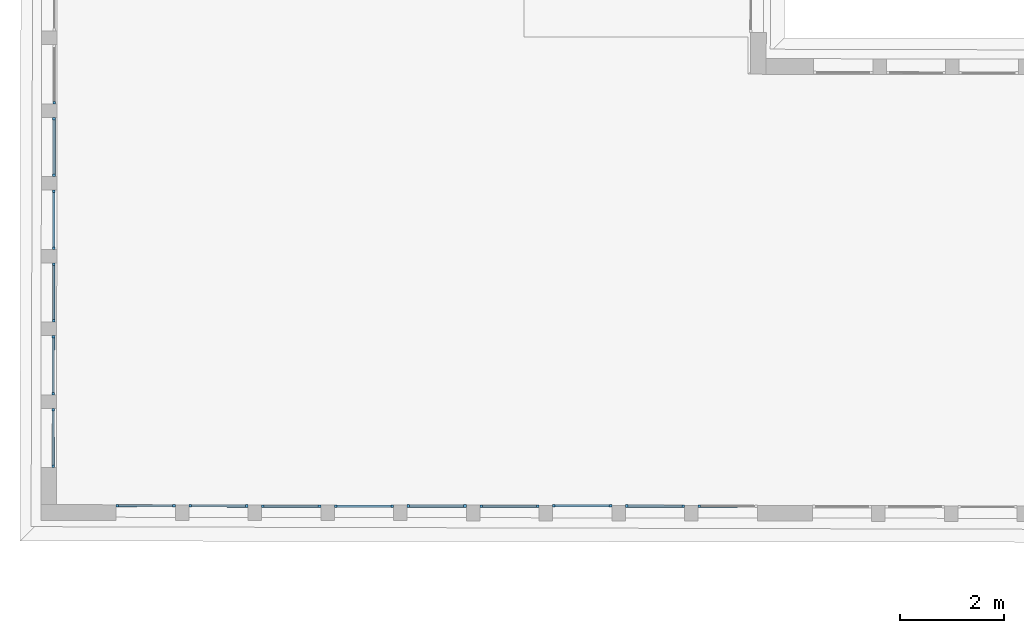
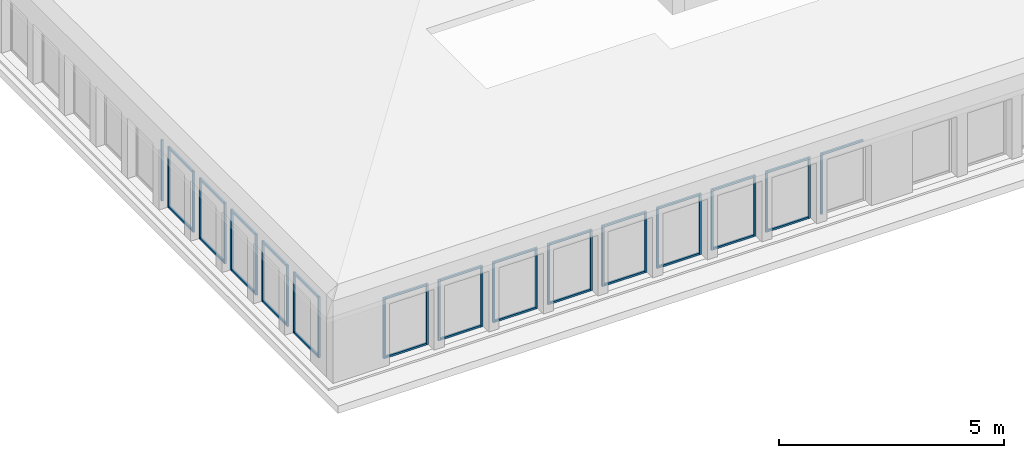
# One storey, part 1 of 26: 55 members, 15 elements without a shape of their own.
"""IFC2X3 building model written with IfcOpenShell, lengths in metres."""

from ifc_helpers import new_model, entity, si_unit, converted_unit, derived_unit, direction, frame, origin, origin_2d_with_axis, place, context, subcontext, project, spatial, rectangle, extrude, source, transform, mapped, material, type_object, type_shapes, element, aggregate, save


model = new_model("IFC2X3")

# Units and contexts
model_context = context("Model", 3, precision=1e-05, world=origin(), true_north=direction((6.123233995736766e-17, 1.0)))
body_context = subcontext(model_context, "Body", "Model", "MODEL_VIEW")
ifc_project = project(units=[si_unit("LENGTHUNIT", "METRE"), si_unit("AREAUNIT", "SQUARE_METRE"), converted_unit("PLANEANGLEUNIT", "DEGREE", entity("IfcPlaneAngleMeasure", 0.017453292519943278), si_unit("PLANEANGLEUNIT", "RADIAN"), dimensions=[0, 0, 0, 0, 0, 0, 0]), derived_unit("THERMALTRANSMITTANCEUNIT", [(si_unit("MASSUNIT", "GRAM", prefix="KILO"), 1), (si_unit("THERMODYNAMICTEMPERATUREUNIT", "KELVIN"), -1), (si_unit("TIMEUNIT", "SECOND"), -3)])], contexts=[model_context])

# Site, building, storey
site_placement = place(None, frame((1253.6752467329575, 2072.143113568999, 91.49999999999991), z_axis=(0.0, 0.0, 1.0), x_axis=(0.7237211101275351, 0.6900925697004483, 0.0)))
site = spatial("IfcSite", under=ifc_project, at=site_placement, Name="Surface", CompositionType="ELEMENT")
building_placement = place(site_placement, origin())
building = spatial("IfcBuilding", under=site, at=building_placement, CompositionType="ELEMENT")
storey_placement = place(building_placement, frame((0.0, 0.0, 7.0)))
storey = spatial("IfcBuildingStorey", under=building, at=storey_placement, Name="2-R+2", CompositionType="ELEMENT", Elevation=6.999999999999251)

# Curtain wall, member
curtain_wall_type = type_object("IfcCurtainWallType", Name="Mur-rideau:Menuiserie Ext 1F+1OB VERTIC", PredefinedType="NOTDEFINED")
curtain_wall_1_placement = place(storey_placement, frame((0.0, 0.0, -7.0)))
curtain_wall_1 = element("IfcCurtainWall", 1, at=curtain_wall_1_placement, inside=storey, type_object=curtain_wall_type, Name="Mur-rideau:Menuiserie Ext 1F+1OB VERTIC", ObjectType="Mur-rideau:Menuiserie Ext 1F+1OB VERTIC")
ifc_material = material(Name="OMD_Aluminium Men Ext")
member_type_1 = type_object("IfcMemberType", Name="Meneau rectangulaire:50x50", PredefinedType="MULLION", material=ifc_material)
shared_shape_1 = source(origin(), body_context, "Body", "SweptSolid", [
    extrude(rectangle(XDim=0.05, YDim=0.049999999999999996, at=origin_2d_with_axis()), frame((-0.025, 0.0, -1.039999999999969), z_axis=(0.0, 0.0, 1.0), x_axis=(-1.0, 0.0, 0.0)), (0.0, 0.0, 1.0), 1.0399999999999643),
])
type_shapes(member_type_1, [shared_shape_1])
member_1_placement = place(curtain_wall_1_placement, frame((149.30888810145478, 9.666246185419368, 9.55), z_axis=(0.6911544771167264, 0.7227070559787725, 0.0), x_axis=(0.0, 0.0, 1.0)))
member_1 = element("IfcMember", 2, at=member_1_placement, type_object=member_type_1, material=ifc_material, Name="Meneau rectangulaire:50x50", ObjectType="Meneau rectangulaire:50x50", context=body_context, shape_type="MappedRepresentation", body=[
    mapped(shared_shape_1, transform((0.0, 0.0, 0.0), scale=1.0)),
])

curtain_wall_2_placement = place(storey_placement, frame((0.0, 0.0, -7.0)))
curtain_wall_2 = element("IfcCurtainWall", 3, at=curtain_wall_2_placement, inside=storey, type_object=curtain_wall_type, Name="Mur-rideau:Menuiserie Ext 1F+1OB VERTIC", ObjectType="Mur-rideau:Menuiserie Ext 1F+1OB VERTIC")
member_2_placement = place(curtain_wall_2_placement, frame((148.3401226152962, 8.65555660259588, 9.55), z_axis=(0.6911544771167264, 0.7227070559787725, 0.0), x_axis=(0.0, 0.0, 1.0)))
member_2 = element("IfcMember", 4, at=member_2_placement, type_object=member_type_1, material=ifc_material, Name="Meneau rectangulaire:50x50", ObjectType="Meneau rectangulaire:50x50", context=body_context, shape_type="MappedRepresentation", body=[
    mapped(shared_shape_1, transform((0.0, 0.0, 0.0), scale=1.0)),
])

curtain_wall_3_placement = place(storey_placement, frame((0.0, 0.0, -7.0)))
curtain_wall_3 = element("IfcCurtainWall", 5, at=curtain_wall_3_placement, inside=storey, type_object=curtain_wall_type, Name="Mur-rideau:Menuiserie Ext 1F+1OB VERTIC", ObjectType="Mur-rideau:Menuiserie Ext 1F+1OB VERTIC")
member_3_placement = place(curtain_wall_3_placement, frame((147.3713571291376, 7.644867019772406, 9.55), z_axis=(0.6911544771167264, 0.7227070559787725, 0.0), x_axis=(0.0, 0.0, 1.0)))
member_3 = element("IfcMember", 6, at=member_3_placement, type_object=member_type_1, material=ifc_material, Name="Meneau rectangulaire:50x50", ObjectType="Meneau rectangulaire:50x50", context=body_context, shape_type="MappedRepresentation", body=[
    mapped(shared_shape_1, transform((0.0, 0.0, 0.0), scale=1.0)),
])

curtain_wall_4_placement = place(storey_placement, frame((0.0, 0.0, -7.0)))
curtain_wall_4 = element("IfcCurtainWall", 7, at=curtain_wall_4_placement, inside=storey, type_object=curtain_wall_type, Name="Mur-rideau:Menuiserie Ext 1F+1OB VERTIC", ObjectType="Mur-rideau:Menuiserie Ext 1F+1OB VERTIC")
member_4_placement = place(curtain_wall_4_placement, frame((146.40259164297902, 6.634177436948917, 9.55), z_axis=(0.6911544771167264, 0.7227070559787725, 0.0), x_axis=(0.0, 0.0, 1.0)))
member_4 = element("IfcMember", 8, at=member_4_placement, type_object=member_type_1, material=ifc_material, Name="Meneau rectangulaire:50x50", ObjectType="Meneau rectangulaire:50x50", context=body_context, shape_type="MappedRepresentation", body=[
    mapped(shared_shape_1, transform((0.0, 0.0, 0.0), scale=1.0)),
])

curtain_wall_5_placement = place(storey_placement, frame((0.0, 0.0, -7.0)))
curtain_wall_5 = element("IfcCurtainWall", 9, at=curtain_wall_5_placement, inside=storey, type_object=curtain_wall_type, Name="Mur-rideau:Menuiserie Ext 1F+1OB VERTIC", ObjectType="Mur-rideau:Menuiserie Ext 1F+1OB VERTIC")
member_5_placement = place(curtain_wall_5_placement, frame((145.43382615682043, 5.623487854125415, 9.55), z_axis=(0.6911544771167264, 0.7227070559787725, 0.0), x_axis=(0.0, 0.0, 1.0)))
member_5 = element("IfcMember", 10, at=member_5_placement, type_object=member_type_1, material=ifc_material, Name="Meneau rectangulaire:50x50", ObjectType="Meneau rectangulaire:50x50", context=body_context, shape_type="MappedRepresentation", body=[
    mapped(shared_shape_1, transform((0.0, 0.0, 0.0), scale=1.0)),
])

curtain_wall_6_placement = place(storey_placement, frame((0.0, 0.0, -7.0)))
curtain_wall_6 = element("IfcCurtainWall", 11, at=curtain_wall_6_placement, inside=storey, type_object=curtain_wall_type, Name="Mur-rideau:Menuiserie Ext 1F+1OB VERTIC", ObjectType="Mur-rideau:Menuiserie Ext 1F+1OB VERTIC")
member_6_placement = place(curtain_wall_6_placement, frame((153.18626883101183, -4.300188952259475, 9.55), z_axis=(-0.7228702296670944, 0.6909838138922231, 0.0), x_axis=(0.0, 0.0, 1.0)))
member_6 = element("IfcMember", 12, at=member_6_placement, type_object=member_type_1, material=ifc_material, Name="Meneau rectangulaire:50x50", ObjectType="Meneau rectangulaire:50x50", context=body_context, shape_type="MappedRepresentation", body=[
    mapped(shared_shape_1, transform((0.0, 0.0, 0.0), scale=1.0)),
])

curtain_wall_7_placement = place(storey_placement, frame((0.0, 0.0, -7.0)))
curtain_wall_7 = element("IfcCurtainWall", 13, at=curtain_wall_7_placement, inside=storey, type_object=curtain_wall_type, Name="Mur-rideau:Menuiserie Ext 1F+1OB VERTIC", ObjectType="Mur-rideau:Menuiserie Ext 1F+1OB VERTIC")
member_7_placement = place(curtain_wall_7_placement, frame((152.17557924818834, -3.331423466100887, 9.55), z_axis=(-0.7228702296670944, 0.6909838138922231, 0.0), x_axis=(0.0, 0.0, 1.0)))
member_7 = element("IfcMember", 14, at=member_7_placement, type_object=member_type_1, material=ifc_material, Name="Meneau rectangulaire:50x50", ObjectType="Meneau rectangulaire:50x50", context=body_context, shape_type="MappedRepresentation", body=[
    mapped(shared_shape_1, transform((0.0, 0.0, 0.0), scale=1.0)),
])

curtain_wall_8_placement = place(storey_placement, frame((0.0, 0.0, -7.0)))
curtain_wall_8 = element("IfcCurtainWall", 15, at=curtain_wall_8_placement, inside=storey, type_object=curtain_wall_type, Name="Mur-rideau:Menuiserie Ext 1F+1OB VERTIC", ObjectType="Mur-rideau:Menuiserie Ext 1F+1OB VERTIC")
member_8_placement = place(curtain_wall_8_placement, frame((151.16488966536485, -2.3626579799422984, 9.55), z_axis=(-0.7228702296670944, 0.6909838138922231, 0.0), x_axis=(0.0, 0.0, 1.0)))
member_8 = element("IfcMember", 16, at=member_8_placement, type_object=member_type_1, material=ifc_material, Name="Meneau rectangulaire:50x50", ObjectType="Meneau rectangulaire:50x50", context=body_context, shape_type="MappedRepresentation", body=[
    mapped(shared_shape_1, transform((0.0, 0.0, 0.0), scale=1.0)),
])

curtain_wall_9_placement = place(storey_placement, frame((0.0, 0.0, -7.0)))
curtain_wall_9 = element("IfcCurtainWall", 17, at=curtain_wall_9_placement, inside=storey, type_object=curtain_wall_type, Name="Mur-rideau:Menuiserie Ext 1F+1OB VERTIC", ObjectType="Mur-rideau:Menuiserie Ext 1F+1OB VERTIC")
member_9_placement = place(curtain_wall_9_placement, frame((150.1472803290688, -1.4011117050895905, 9.55), z_axis=(-0.7228702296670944, 0.6909838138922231, 0.0), x_axis=(0.0, 0.0, 1.0)))
member_9 = element("IfcMember", 18, at=member_9_placement, type_object=member_type_1, material=ifc_material, Name="Meneau rectangulaire:50x50", ObjectType="Meneau rectangulaire:50x50", context=body_context, shape_type="MappedRepresentation", body=[
    mapped(shared_shape_1, transform((0.0, 0.0, 0.0), scale=1.0)),
])

curtain_wall_10_placement = place(storey_placement, frame((0.0, 0.0, -7.0)))
curtain_wall_10 = element("IfcCurtainWall", 19, at=curtain_wall_10_placement, inside=storey, type_object=curtain_wall_type, Name="Mur-rideau:Menuiserie Ext 1F+1OB VERTIC", ObjectType="Mur-rideau:Menuiserie Ext 1F+1OB VERTIC")
member_10_placement = place(curtain_wall_10_placement, frame((149.1365907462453, -0.4323462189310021, 9.55), z_axis=(-0.7228702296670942, 0.6909838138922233, 0.0), x_axis=(0.0, 0.0, 1.0)))
member_10 = element("IfcMember", 20, at=member_10_placement, type_object=member_type_1, material=ifc_material, Name="Meneau rectangulaire:50x50", ObjectType="Meneau rectangulaire:50x50", context=body_context, shape_type="MappedRepresentation", body=[
    mapped(shared_shape_1, transform((0.0, 0.0, 0.0), scale=1.0)),
])

curtain_wall_11_placement = place(storey_placement, frame((0.0, 0.0, -7.0)))
curtain_wall_11 = element("IfcCurtainWall", 21, at=curtain_wall_11_placement, inside=storey, type_object=curtain_wall_type, Name="Mur-rideau:Menuiserie Ext 1F+1OB VERTIC", ObjectType="Mur-rideau:Menuiserie Ext 1F+1OB VERTIC")
member_11_placement = place(curtain_wall_11_placement, frame((148.11898140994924, 0.5292000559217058, 9.55), z_axis=(-0.7228702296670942, 0.6909838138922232, 0.0), x_axis=(0.0, 0.0, 1.0)))
member_11 = element("IfcMember", 22, at=member_11_placement, type_object=member_type_1, material=ifc_material, Name="Meneau rectangulaire:50x50", ObjectType="Meneau rectangulaire:50x50", context=body_context, shape_type="MappedRepresentation", body=[
    mapped(shared_shape_1, transform((0.0, 0.0, 0.0), scale=1.0)),
])

curtain_wall_12_placement = place(storey_placement, frame((0.0, 0.0, -7.0)))
curtain_wall_12 = element("IfcCurtainWall", 23, at=curtain_wall_12_placement, inside=storey, type_object=curtain_wall_type, Name="Mur-rideau:Menuiserie Ext 1F+1OB VERTIC", ObjectType="Mur-rideau:Menuiserie Ext 1F+1OB VERTIC")
member_12_placement = place(curtain_wall_12_placement, frame((147.10829182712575, 1.4979655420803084, 9.55), z_axis=(-0.7228702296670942, 0.6909838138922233, 0.0), x_axis=(0.0, 0.0, 1.0)))
member_12 = element("IfcMember", 24, at=member_12_placement, type_object=member_type_1, material=ifc_material, Name="Meneau rectangulaire:50x50", ObjectType="Meneau rectangulaire:50x50", context=body_context, shape_type="MappedRepresentation", body=[
    mapped(shared_shape_1, transform((0.0, 0.0, 0.0), scale=1.0)),
])

curtain_wall_13_placement = place(storey_placement, frame((0.0, 0.0, -7.0)))
curtain_wall_13 = element("IfcCurtainWall", 25, at=curtain_wall_13_placement, inside=storey, type_object=curtain_wall_type, Name="Mur-rideau:Menuiserie Ext 1F+1OB VERTIC", ObjectType="Mur-rideau:Menuiserie Ext 1F+1OB VERTIC")
member_13_placement = place(curtain_wall_13_placement, frame((146.09760224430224, 2.4667310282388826, 9.55), z_axis=(-0.7228702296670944, 0.6909838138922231, 0.0), x_axis=(0.0, 0.0, 1.0)))
member_13 = element("IfcMember", 26, at=member_13_placement, type_object=member_type_1, material=ifc_material, Name="Meneau rectangulaire:50x50", ObjectType="Meneau rectangulaire:50x50", context=body_context, shape_type="MappedRepresentation", body=[
    mapped(shared_shape_1, transform((0.0, 0.0, 0.0), scale=1.0)),
])

curtain_wall_14_placement = place(storey_placement, frame((0.0, 0.0, -7.0)))
curtain_wall_14 = element("IfcCurtainWall", 27, at=curtain_wall_14_placement, inside=storey, type_object=curtain_wall_type, Name="Mur-rideau:Menuiserie Ext 1F+1OB VERTIC", ObjectType="Mur-rideau:Menuiserie Ext 1F+1OB VERTIC")
member_14_placement = place(curtain_wall_14_placement, frame((145.08691266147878, 3.435496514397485, 9.55), z_axis=(-0.7228702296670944, 0.6909838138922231, 0.0), x_axis=(0.0, 0.0, 1.0)))
member_14 = element("IfcMember", 28, at=member_14_placement, type_object=member_type_1, material=ifc_material, Name="Meneau rectangulaire:50x50", ObjectType="Meneau rectangulaire:50x50", context=body_context, shape_type="MappedRepresentation", body=[
    mapped(shared_shape_1, transform((0.0, 0.0, 0.0), scale=1.0)),
])

# Member
member_type_2 = type_object("IfcMemberType", Name="Meneau rectangulaire:50x50", PredefinedType="MULLION", material=ifc_material)
shared_shape_2 = source(origin(), body_context, "Body", "SweptSolid", [
    extrude(rectangle(XDim=0.05, YDim=0.05, at=origin_2d_with_axis()), frame((-0.025, 0.0, -1.0399999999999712), z_axis=(0.0, 0.0, 1.0), x_axis=(-1.0, 0.0, 0.0)), (0.0, 0.0, 1.0), 1.0399999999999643),
])
type_shapes(member_type_2, [shared_shape_2])
member_15_placement = place(curtain_wall_1_placement, frame((148.5900874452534, 8.914630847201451, 7.9), z_axis=(-0.6911544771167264, -0.7227070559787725, 0.0), x_axis=(0.0, 0.0, -1.0)))
member_15 = element("IfcMember", 29, at=member_15_placement, type_object=member_type_2, material=ifc_material, Name="Meneau rectangulaire:50x50", ObjectType="Meneau rectangulaire:50x50", context=body_context, shape_type="MappedRepresentation", body=[
    mapped(shared_shape_2, transform((0.0, 0.0, 0.0), scale=1.0)),
])

member_16_placement = place(curtain_wall_2_placement, frame((147.62132195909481, 7.903941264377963, 7.9), z_axis=(-0.6911544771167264, -0.7227070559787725, 0.0), x_axis=(0.0, 0.0, -1.0)))
member_16 = element("IfcMember", 30, at=member_16_placement, type_object=member_type_2, material=ifc_material, Name="Meneau rectangulaire:50x50", ObjectType="Meneau rectangulaire:50x50", context=body_context, shape_type="MappedRepresentation", body=[
    mapped(shared_shape_2, transform((0.0, 0.0, 0.0), scale=1.0)),
])

member_17_placement = place(curtain_wall_3_placement, frame((146.65255647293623, 6.893251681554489, 7.9), z_axis=(-0.6911544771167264, -0.7227070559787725, 0.0), x_axis=(0.0, 0.0, -1.0)))
member_17 = element("IfcMember", 31, at=member_17_placement, type_object=member_type_2, material=ifc_material, Name="Meneau rectangulaire:50x50", ObjectType="Meneau rectangulaire:50x50", context=body_context, shape_type="MappedRepresentation", body=[
    mapped(shared_shape_2, transform((0.0, 0.0, 0.0), scale=1.0)),
])

member_18_placement = place(curtain_wall_4_placement, frame((145.6837909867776, 5.882562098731, 7.9), z_axis=(-0.6911544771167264, -0.7227070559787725, 0.0), x_axis=(0.0, 0.0, -1.0)))
member_18 = element("IfcMember", 32, at=member_18_placement, type_object=member_type_2, material=ifc_material, Name="Meneau rectangulaire:50x50", ObjectType="Meneau rectangulaire:50x50", context=body_context, shape_type="MappedRepresentation", body=[
    mapped(shared_shape_2, transform((0.0, 0.0, 0.0), scale=1.0)),
])

member_19_placement = place(curtain_wall_5_placement, frame((144.71502550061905, 4.871872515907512, 7.9), z_axis=(-0.6911544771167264, -0.7227070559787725, 0.0), x_axis=(0.0, 0.0, -1.0)))
member_19 = element("IfcMember", 33, at=member_19_placement, type_object=member_type_2, material=ifc_material, Name="Meneau rectangulaire:50x50", ObjectType="Meneau rectangulaire:50x50", context=body_context, shape_type="MappedRepresentation", body=[
    mapped(shared_shape_2, transform((0.0, 0.0, 0.0), scale=1.0)),
])

member_20_placement = place(curtain_wall_7_placement, frame((152.9273642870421, -4.050046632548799, 7.900000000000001), z_axis=(0.7228702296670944, -0.6909838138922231, 0.0), x_axis=(0.0, 0.0, -1.0)))
member_20 = element("IfcMember", 34, at=member_20_placement, type_object=member_type_2, material=ifc_material, Name="Meneau rectangulaire:50x50", ObjectType="Meneau rectangulaire:50x50", context=body_context, shape_type="MappedRepresentation", body=[
    mapped(shared_shape_2, transform((0.0, 0.0, 0.0), scale=1.0)),
])

member_21_placement = place(curtain_wall_8_placement, frame((151.91667470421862, -3.0812811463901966, 7.900000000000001), z_axis=(0.7228702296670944, -0.6909838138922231, 0.0), x_axis=(0.0, 0.0, -1.0)))
member_21 = element("IfcMember", 35, at=member_21_placement, type_object=member_type_2, material=ifc_material, Name="Meneau rectangulaire:50x50", ObjectType="Meneau rectangulaire:50x50", context=body_context, shape_type="MappedRepresentation", body=[
    mapped(shared_shape_2, transform((0.0, 0.0, 0.0), scale=1.0)),
])

member_22_placement = place(curtain_wall_9_placement, frame((150.89906536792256, -2.1197348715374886, 7.900000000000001), z_axis=(0.7228702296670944, -0.6909838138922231, 0.0), x_axis=(0.0, 0.0, -1.0)))
member_22 = element("IfcMember", 36, at=member_22_placement, type_object=member_type_2, material=ifc_material, Name="Meneau rectangulaire:50x50", ObjectType="Meneau rectangulaire:50x50", context=body_context, shape_type="MappedRepresentation", body=[
    mapped(shared_shape_2, transform((0.0, 0.0, 0.0), scale=1.0)),
])

member_23_placement = place(curtain_wall_10_placement, frame((149.88837578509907, -1.1509693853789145, 7.900000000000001), z_axis=(0.7228702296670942, -0.6909838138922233, 0.0), x_axis=(0.0, 0.0, -1.0)))
member_23 = element("IfcMember", 37, at=member_23_placement, type_object=member_type_2, material=ifc_material, Name="Meneau rectangulaire:50x50", ObjectType="Meneau rectangulaire:50x50", context=body_context, shape_type="MappedRepresentation", body=[
    mapped(shared_shape_2, transform((0.0, 0.0, 0.0), scale=1.0)),
])

member_24_placement = place(curtain_wall_11_placement, frame((148.870766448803, -0.1894231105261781, 7.900000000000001), z_axis=(0.7228702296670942, -0.6909838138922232, 0.0), x_axis=(0.0, 0.0, -1.0)))
member_24 = element("IfcMember", 38, at=member_24_placement, type_object=member_type_2, material=ifc_material, Name="Meneau rectangulaire:50x50", ObjectType="Meneau rectangulaire:50x50", context=body_context, shape_type="MappedRepresentation", body=[
    mapped(shared_shape_2, transform((0.0, 0.0, 0.0), scale=1.0)),
])

member_25_placement = place(curtain_wall_12_placement, frame((147.86007686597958, 0.7793423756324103, 7.900000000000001), z_axis=(0.7228702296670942, -0.6909838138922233, 0.0), x_axis=(0.0, 0.0, -1.0)))
member_25 = element("IfcMember", 39, at=member_25_placement, type_object=member_type_2, material=ifc_material, Name="Meneau rectangulaire:50x50", ObjectType="Meneau rectangulaire:50x50", context=body_context, shape_type="MappedRepresentation", body=[
    mapped(shared_shape_2, transform((0.0, 0.0, 0.0), scale=1.0)),
])

member_26_placement = place(curtain_wall_13_placement, frame((146.84938728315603, 1.7481078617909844, 7.900000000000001), z_axis=(0.7228702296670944, -0.6909838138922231, 0.0), x_axis=(0.0, 0.0, -1.0)))
member_26 = element("IfcMember", 40, at=member_26_placement, type_object=member_type_2, material=ifc_material, Name="Meneau rectangulaire:50x50", ObjectType="Meneau rectangulaire:50x50", context=body_context, shape_type="MappedRepresentation", body=[
    mapped(shared_shape_2, transform((0.0, 0.0, 0.0), scale=1.0)),
])

member_27_placement = place(curtain_wall_14_placement, frame((145.83869770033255, 2.716873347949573, 7.900000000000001), z_axis=(0.7228702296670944, -0.6909838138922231, 0.0), x_axis=(0.0, 0.0, -1.0)))
member_27 = element("IfcMember", 41, at=member_27_placement, type_object=member_type_2, material=ifc_material, Name="Meneau rectangulaire:50x50", ObjectType="Meneau rectangulaire:50x50", context=body_context, shape_type="MappedRepresentation", body=[
    mapped(shared_shape_2, transform((0.0, 0.0, 0.0), scale=1.0)),
])

member_type_3 = type_object("IfcMemberType", Name="Meneau rectangulaire:50x50", PredefinedType="MULLION", material=ifc_material)
shared_shape_3 = source(origin(), body_context, "Body", "SweptSolid", [
    extrude(rectangle(XDim=0.05, YDim=0.05, at=origin_2d_with_axis()), frame((-0.025, 0.0, -1.6499999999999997), z_axis=(0.0, 0.0, 1.0), x_axis=(-1.0, 0.0, 0.0)), (0.0, 0.0, 1.0), 1.6499999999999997),
])
type_shapes(member_type_3, [shared_shape_3])
member_28_placement = place(curtain_wall_1_placement, frame((149.34344582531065, 9.702381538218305, 7.9), z_axis=(0.0, 0.0, -1.0), x_axis=(0.6911544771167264, 0.7227070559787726, 0.0)))
member_28 = element("IfcMember", 42, at=member_28_placement, type_object=member_type_3, material=ifc_material, Name="Meneau rectangulaire:50x50", ObjectType="Meneau rectangulaire:50x50", context=body_context, shape_type="MappedRepresentation", body=[
    mapped(shared_shape_3, transform((0.0, 0.0, 0.0), scale=1.0)),
])

member_29_placement = place(curtain_wall_2_placement, frame((148.37468033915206, 8.691691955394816, 7.9), z_axis=(0.0, 0.0, -1.0), x_axis=(0.6911544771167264, 0.7227070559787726, 0.0)))
member_29 = element("IfcMember", 43, at=member_29_placement, type_object=member_type_3, material=ifc_material, Name="Meneau rectangulaire:50x50", ObjectType="Meneau rectangulaire:50x50", context=body_context, shape_type="MappedRepresentation", body=[
    mapped(shared_shape_3, transform((0.0, 0.0, 0.0), scale=1.0)),
])

member_30_placement = place(curtain_wall_3_placement, frame((147.40591485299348, 7.681002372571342, 7.9), z_axis=(0.0, 0.0, -1.0), x_axis=(0.6911544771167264, 0.7227070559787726, 0.0)))
member_30 = element("IfcMember", 44, at=member_30_placement, type_object=member_type_3, material=ifc_material, Name="Meneau rectangulaire:50x50", ObjectType="Meneau rectangulaire:50x50", context=body_context, shape_type="MappedRepresentation", body=[
    mapped(shared_shape_3, transform((0.0, 0.0, 0.0), scale=1.0)),
])

member_31_placement = place(curtain_wall_4_placement, frame((146.4371493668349, 6.670312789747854, 7.9), z_axis=(0.0, 0.0, -1.0), x_axis=(0.6911544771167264, 0.7227070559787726, 0.0)))
member_31 = element("IfcMember", 45, at=member_31_placement, type_object=member_type_3, material=ifc_material, Name="Meneau rectangulaire:50x50", ObjectType="Meneau rectangulaire:50x50", context=body_context, shape_type="MappedRepresentation", body=[
    mapped(shared_shape_3, transform((0.0, 0.0, 0.0), scale=1.0)),
])

member_32_placement = place(curtain_wall_5_placement, frame((145.4683838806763, 5.6596232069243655, 7.9), z_axis=(0.0, 0.0, -1.0), x_axis=(0.6911544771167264, 0.7227070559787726, 0.0)))
member_32 = element("IfcMember", 46, at=member_32_placement, type_object=member_type_3, material=ifc_material, Name="Meneau rectangulaire:50x50", ObjectType="Meneau rectangulaire:50x50", context=body_context, shape_type="MappedRepresentation", body=[
    mapped(shared_shape_3, transform((0.0, 0.0, 0.0), scale=1.0)),
])

member_33_placement = place(curtain_wall_6_placement, frame((153.1501253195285, -4.26563976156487, 7.900000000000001), z_axis=(0.0, 0.0, -1.0), x_axis=(-0.7228702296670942, 0.6909838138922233, 0.0)))
member_33 = element("IfcMember", 47, at=member_33_placement, type_object=member_type_3, material=ifc_material, Name="Meneau rectangulaire:50x50", ObjectType="Meneau rectangulaire:50x50", context=body_context, shape_type="MappedRepresentation", body=[
    mapped(shared_shape_3, transform((0.0, 0.0, 0.0), scale=1.0)),
])

aggregate(curtain_wall_6, [member_6, member_33])

member_34_placement = place(curtain_wall_7_placement, frame((152.13943573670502, -3.2968742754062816, 7.900000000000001), z_axis=(0.0, 0.0, -1.0), x_axis=(-0.7228702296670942, 0.6909838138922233, 0.0)))
member_34 = element("IfcMember", 48, at=member_34_placement, type_object=member_type_3, material=ifc_material, Name="Meneau rectangulaire:50x50", ObjectType="Meneau rectangulaire:50x50", context=body_context, shape_type="MappedRepresentation", body=[
    mapped(shared_shape_3, transform((0.0, 0.0, 0.0), scale=1.0)),
])

member_35_placement = place(curtain_wall_8_placement, frame((151.12874615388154, -2.328108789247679, 7.900000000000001), z_axis=(0.0, 0.0, -1.0), x_axis=(-0.7228702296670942, 0.6909838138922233, 0.0)))
member_35 = element("IfcMember", 49, at=member_35_placement, type_object=member_type_3, material=ifc_material, Name="Meneau rectangulaire:50x50", ObjectType="Meneau rectangulaire:50x50", context=body_context, shape_type="MappedRepresentation", body=[
    mapped(shared_shape_3, transform((0.0, 0.0, 0.0), scale=1.0)),
])

member_36_placement = place(curtain_wall_9_placement, frame((150.11113681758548, -1.3665625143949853, 7.900000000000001), z_axis=(0.0, 0.0, -1.0), x_axis=(-0.7228702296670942, 0.6909838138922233, 0.0)))
member_36 = element("IfcMember", 50, at=member_36_placement, type_object=member_type_3, material=ifc_material, Name="Meneau rectangulaire:50x50", ObjectType="Meneau rectangulaire:50x50", context=body_context, shape_type="MappedRepresentation", body=[
    mapped(shared_shape_3, transform((0.0, 0.0, 0.0), scale=1.0)),
])

member_37_placement = place(curtain_wall_10_placement, frame((149.10044723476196, -0.39779702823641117, 7.900000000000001), z_axis=(0.0, 0.0, -1.0), x_axis=(-0.7228702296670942, 0.6909838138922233, 0.0)))
member_37 = element("IfcMember", 51, at=member_37_placement, type_object=member_type_3, material=ifc_material, Name="Meneau rectangulaire:50x50", ObjectType="Meneau rectangulaire:50x50", context=body_context, shape_type="MappedRepresentation", body=[
    mapped(shared_shape_3, transform((0.0, 0.0, 0.0), scale=1.0)),
])

member_38_placement = place(curtain_wall_11_placement, frame((148.0828378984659, 0.5637492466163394, 7.900000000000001), z_axis=(0.0, 0.0, -1.0), x_axis=(-0.7228702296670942, 0.6909838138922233, 0.0)))
member_38 = element("IfcMember", 52, at=member_38_placement, type_object=member_type_3, material=ifc_material, Name="Meneau rectangulaire:50x50", ObjectType="Meneau rectangulaire:50x50", context=body_context, shape_type="MappedRepresentation", body=[
    mapped(shared_shape_3, transform((0.0, 0.0, 0.0), scale=1.0)),
])

member_39_placement = place(curtain_wall_12_placement, frame((147.07214831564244, 1.5325147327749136, 7.900000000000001), z_axis=(0.0, 0.0, -1.0), x_axis=(-0.7228702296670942, 0.6909838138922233, 0.0)))
member_39 = element("IfcMember", 53, at=member_39_placement, type_object=member_type_3, material=ifc_material, Name="Meneau rectangulaire:50x50", ObjectType="Meneau rectangulaire:50x50", context=body_context, shape_type="MappedRepresentation", body=[
    mapped(shared_shape_3, transform((0.0, 0.0, 0.0), scale=1.0)),
])

member_40_placement = place(curtain_wall_13_placement, frame((146.06145873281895, 2.501280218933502, 7.900000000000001), z_axis=(0.0, 0.0, -1.0), x_axis=(-0.7228702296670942, 0.6909838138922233, 0.0)))
member_40 = element("IfcMember", 54, at=member_40_placement, type_object=member_type_3, material=ifc_material, Name="Meneau rectangulaire:50x50", ObjectType="Meneau rectangulaire:50x50", context=body_context, shape_type="MappedRepresentation", body=[
    mapped(shared_shape_3, transform((0.0, 0.0, 0.0), scale=1.0)),
])

member_41_placement = place(curtain_wall_14_placement, frame((145.05076914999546, 3.4700457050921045, 7.900000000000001), z_axis=(0.0, 0.0, -1.0), x_axis=(-0.7228702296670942, 0.6909838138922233, 0.0)))
member_41 = element("IfcMember", 55, at=member_41_placement, type_object=member_type_3, material=ifc_material, Name="Meneau rectangulaire:50x50", ObjectType="Meneau rectangulaire:50x50", context=body_context, shape_type="MappedRepresentation", body=[
    mapped(shared_shape_3, transform((0.0, 0.0, 0.0), scale=1.0)),
])

# Curtain wall, member
curtain_wall_15_placement = place(storey_placement, frame((0.0, 0.0, -7.0)))
curtain_wall_15 = element("IfcCurtainWall", 56, at=curtain_wall_15_placement, inside=storey, type_object=curtain_wall_type, Name="Mur-rideau:Menuiserie Ext 1F+1OB VERTIC", ObjectType="Mur-rideau:Menuiserie Ext 1F+1OB VERTIC")
member_type_4 = type_object("IfcMemberType", Name="Meneau rectangulaire:50x50", PredefinedType="MULLION", material=ifc_material)
shared_shape_4 = source(origin(), body_context, "Body", "SweptSolid", [
    extrude(rectangle(XDim=0.05, YDim=0.05000000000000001, at=origin_2d_with_axis()), frame((-0.025, 0.0, -1.6499999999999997), z_axis=(0.0, 0.0, 1.0), x_axis=(-1.0, 0.0, 0.0)), (0.0, 0.0, 1.0), 1.6499999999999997),
])
type_shapes(member_type_4, [shared_shape_4])
member_42_placement = place(curtain_wall_15_placement, frame((149.52429520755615, 9.889185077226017, 9.55), z_axis=(0.0, 0.0, 1.0), x_axis=(-0.6911544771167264, -0.7227070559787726, 0.0)))
member_42 = element("IfcMember", 57, at=member_42_placement, type_object=member_type_4, material=ifc_material, Name="Meneau rectangulaire:50x50", ObjectType="Meneau rectangulaire:50x50", context=body_context, shape_type="MappedRepresentation", body=[
    mapped(shared_shape_4, transform((0.0, 0.0, 0.0), scale=1.0)),
])
aggregate(curtain_wall_15, [member_42])

# Member
member_43_placement = place(curtain_wall_1_placement, frame((148.5555297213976, 8.8784954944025, 9.55), z_axis=(0.0, 0.0, 1.0), x_axis=(-0.6911544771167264, -0.7227070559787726, 0.0)))
member_43 = element("IfcMember", 58, at=member_43_placement, type_object=member_type_4, material=ifc_material, Name="Meneau rectangulaire:50x50", ObjectType="Meneau rectangulaire:50x50", context=body_context, shape_type="MappedRepresentation", body=[
    mapped(shared_shape_4, transform((0.0, 0.0, 0.0), scale=1.0)),
])

aggregate(curtain_wall_1, [member_1, member_15, member_28, member_43])

member_44_placement = place(curtain_wall_2_placement, frame((147.586764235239, 7.867805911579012, 9.55), z_axis=(0.0, 0.0, 1.0), x_axis=(-0.6911544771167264, -0.7227070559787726, 0.0)))
member_44 = element("IfcMember", 59, at=member_44_placement, type_object=member_type_4, material=ifc_material, Name="Meneau rectangulaire:50x50", ObjectType="Meneau rectangulaire:50x50", context=body_context, shape_type="MappedRepresentation", body=[
    mapped(shared_shape_4, transform((0.0, 0.0, 0.0), scale=1.0)),
])

aggregate(curtain_wall_2, [member_2, member_16, member_29, member_44])

member_45_placement = place(curtain_wall_3_placement, frame((146.6179987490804, 6.857116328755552, 9.55), z_axis=(0.0, 0.0, 1.0), x_axis=(-0.6911544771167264, -0.7227070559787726, 0.0)))
member_45 = element("IfcMember", 60, at=member_45_placement, type_object=member_type_4, material=ifc_material, Name="Meneau rectangulaire:50x50", ObjectType="Meneau rectangulaire:50x50", context=body_context, shape_type="MappedRepresentation", body=[
    mapped(shared_shape_4, transform((0.0, 0.0, 0.0), scale=1.0)),
])

aggregate(curtain_wall_3, [member_3, member_17, member_30, member_45])

member_46_placement = place(curtain_wall_4_placement, frame((145.64923326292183, 5.846426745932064, 9.55), z_axis=(0.0, 0.0, 1.0), x_axis=(-0.6911544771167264, -0.7227070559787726, 0.0)))
member_46 = element("IfcMember", 61, at=member_46_placement, type_object=member_type_4, material=ifc_material, Name="Meneau rectangulaire:50x50", ObjectType="Meneau rectangulaire:50x50", context=body_context, shape_type="MappedRepresentation", body=[
    mapped(shared_shape_4, transform((0.0, 0.0, 0.0), scale=1.0)),
])

aggregate(curtain_wall_4, [member_4, member_18, member_31, member_46])

member_47_placement = place(curtain_wall_5_placement, frame((144.68046777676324, 4.8357371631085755, 9.55), z_axis=(0.0, 0.0, 1.0), x_axis=(-0.6911544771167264, -0.7227070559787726, 0.0)))
member_47 = element("IfcMember", 62, at=member_47_placement, type_object=member_type_4, material=ifc_material, Name="Meneau rectangulaire:50x50", ObjectType="Meneau rectangulaire:50x50", context=body_context, shape_type="MappedRepresentation", body=[
    mapped(shared_shape_4, transform((0.0, 0.0, 0.0), scale=1.0)),
])

aggregate(curtain_wall_5, [member_5, member_19, member_32, member_47])

member_48_placement = place(curtain_wall_7_placement, frame((152.96350779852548, -4.084595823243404, 9.55), z_axis=(0.0, 0.0, 1.0), x_axis=(0.7228702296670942, -0.6909838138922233, 0.0)))
member_48 = element("IfcMember", 63, at=member_48_placement, type_object=member_type_4, material=ifc_material, Name="Meneau rectangulaire:50x50", ObjectType="Meneau rectangulaire:50x50", context=body_context, shape_type="MappedRepresentation", body=[
    mapped(shared_shape_4, transform((0.0, 0.0, 0.0), scale=1.0)),
])

aggregate(curtain_wall_7, [member_7, member_20, member_34, member_48])

member_49_placement = place(curtain_wall_8_placement, frame((151.952818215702, -3.115830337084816, 9.55), z_axis=(0.0, 0.0, 1.0), x_axis=(0.7228702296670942, -0.6909838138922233, 0.0)))
member_49 = element("IfcMember", 64, at=member_49_placement, type_object=member_type_4, material=ifc_material, Name="Meneau rectangulaire:50x50", ObjectType="Meneau rectangulaire:50x50", context=body_context, shape_type="MappedRepresentation", body=[
    mapped(shared_shape_4, transform((0.0, 0.0, 0.0), scale=1.0)),
])

aggregate(curtain_wall_8, [member_8, member_21, member_35, member_49])

member_50_placement = place(curtain_wall_9_placement, frame((150.93520887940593, -2.154284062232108, 9.55), z_axis=(0.0, 0.0, 1.0), x_axis=(0.7228702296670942, -0.6909838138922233, 0.0)))
member_50 = element("IfcMember", 65, at=member_50_placement, type_object=member_type_4, material=ifc_material, Name="Meneau rectangulaire:50x50", ObjectType="Meneau rectangulaire:50x50", context=body_context, shape_type="MappedRepresentation", body=[
    mapped(shared_shape_4, transform((0.0, 0.0, 0.0), scale=1.0)),
])

aggregate(curtain_wall_9, [member_9, member_22, member_36, member_50])

member_51_placement = place(curtain_wall_10_placement, frame((149.92451929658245, -1.1855185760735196, 9.55), z_axis=(0.0, 0.0, 1.0), x_axis=(0.7228702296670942, -0.6909838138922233, 0.0)))
member_51 = element("IfcMember", 66, at=member_51_placement, type_object=member_type_4, material=ifc_material, Name="Meneau rectangulaire:50x50", ObjectType="Meneau rectangulaire:50x50", context=body_context, shape_type="MappedRepresentation", body=[
    mapped(shared_shape_4, transform((0.0, 0.0, 0.0), scale=1.0)),
])

aggregate(curtain_wall_10, [member_10, member_23, member_37, member_51])

member_52_placement = place(curtain_wall_11_placement, frame((148.90690996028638, -0.22397230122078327, 9.55), z_axis=(0.0, 0.0, 1.0), x_axis=(0.7228702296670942, -0.6909838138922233, 0.0)))
member_52 = element("IfcMember", 67, at=member_52_placement, type_object=member_type_4, material=ifc_material, Name="Meneau rectangulaire:50x50", ObjectType="Meneau rectangulaire:50x50", context=body_context, shape_type="MappedRepresentation", body=[
    mapped(shared_shape_4, transform((0.0, 0.0, 0.0), scale=1.0)),
])

aggregate(curtain_wall_11, [member_11, member_24, member_38, member_52])

member_53_placement = place(curtain_wall_12_placement, frame((147.8962203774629, 0.7447931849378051, 9.55), z_axis=(0.0, 0.0, 1.0), x_axis=(0.7228702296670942, -0.6909838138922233, 0.0)))
member_53 = element("IfcMember", 68, at=member_53_placement, type_object=member_type_4, material=ifc_material, Name="Meneau rectangulaire:50x50", ObjectType="Meneau rectangulaire:50x50", context=body_context, shape_type="MappedRepresentation", body=[
    mapped(shared_shape_4, transform((0.0, 0.0, 0.0), scale=1.0)),
])

aggregate(curtain_wall_12, [member_12, member_25, member_39, member_53])

member_54_placement = place(curtain_wall_13_placement, frame((146.8855307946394, 1.7135586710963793, 9.55), z_axis=(0.0, 0.0, 1.0), x_axis=(0.7228702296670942, -0.6909838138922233, 0.0)))
member_54 = element("IfcMember", 69, at=member_54_placement, type_object=member_type_4, material=ifc_material, Name="Meneau rectangulaire:50x50", ObjectType="Meneau rectangulaire:50x50", context=body_context, shape_type="MappedRepresentation", body=[
    mapped(shared_shape_4, transform((0.0, 0.0, 0.0), scale=1.0)),
])

aggregate(curtain_wall_13, [member_13, member_26, member_40, member_54])

member_55_placement = place(curtain_wall_14_placement, frame((145.87484121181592, 2.682324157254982, 9.55), z_axis=(0.0, 0.0, 1.0), x_axis=(0.7228702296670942, -0.6909838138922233, 0.0)))
member_55 = element("IfcMember", 70, at=member_55_placement, type_object=member_type_4, material=ifc_material, Name="Meneau rectangulaire:50x50", ObjectType="Meneau rectangulaire:50x50", context=body_context, shape_type="MappedRepresentation", body=[
    mapped(shared_shape_4, transform((0.0, 0.0, 0.0), scale=1.0)),
])

aggregate(curtain_wall_14, [member_14, member_27, member_41, member_55])

save(model, "model.ifc")
